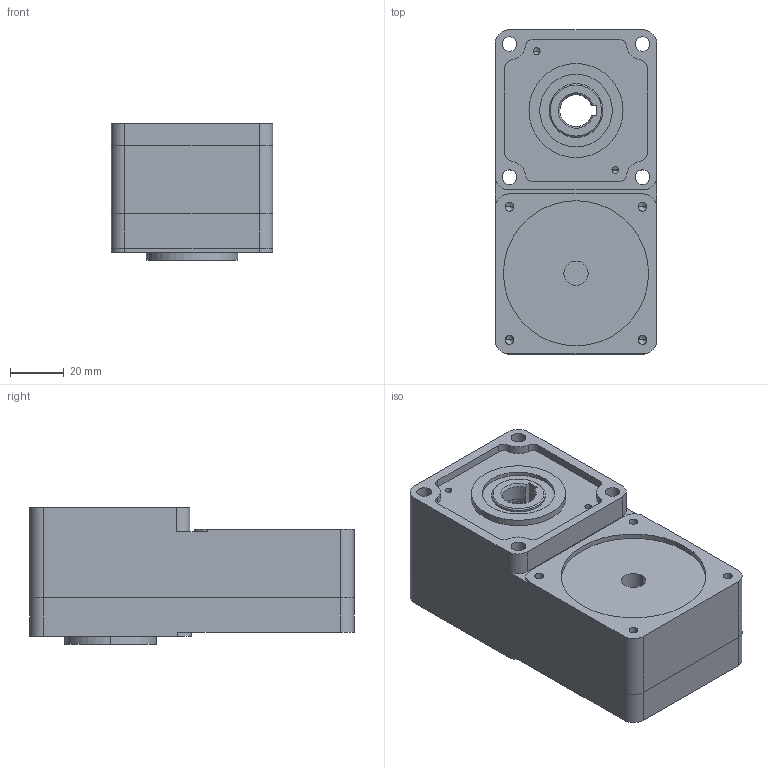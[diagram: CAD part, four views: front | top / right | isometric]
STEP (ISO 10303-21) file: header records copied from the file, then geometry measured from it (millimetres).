
FILE_DESCRIPTION (( 'STEP AP203' ), '1' );
FILE_NAME ('A1890.step', '2024-04-24T09:09:52', ( '' ), ( '' ), 'SwSTEP 2.0', 'SolidWorks 2023', '' );
FILE_SCHEMA (( 'CONFIG_CONTROL_DESIGN' ));
Length unit declared in the file: millimetre
Products named in the file (1): A1890
Bounding box: 60 x 120.5 x 50.8 mm (x, y, z)
Volume: 271488.3 mm3; surface area: 48249.8 mm2
Topology: 1 solids, 8 shells, 228 faces, 538 edges, 328 vertices
Faces by surface type: cylinder 124, plane 53, cone 27, torus 24
Entity records: 6613 total; most frequent: DIRECTION 1268, CARTESIAN_POINT 1091, ORIENTED_EDGE 1044, EDGE_CURVE 522, AXIS2_PLACEMENT_3D 521, VERTEX_POINT 328, CIRCLE 292, EDGE_LOOP 270
